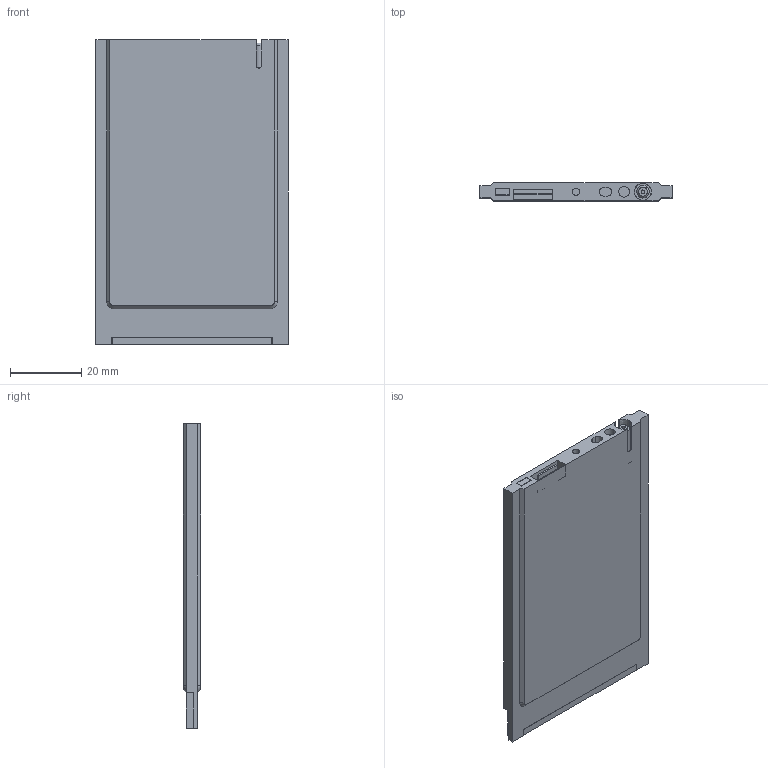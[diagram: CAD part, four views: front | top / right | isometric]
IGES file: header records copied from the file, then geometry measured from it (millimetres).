
Start section:  PTC IGES file: aircard300-1200094-sierra_prt.igs
Global section: file name: aircard300-1200094-sierra_prt.igs; native system: Pro/ENGINEER by Parametric Technology Corporation; preprocessor: 2000030; author: ECaille; organization: Unknown; date: 000803.091917; units: millimetre
Bounding box: 54 x 5 x 85.6 mm (x, y, z)
Surface area: 11344.2 mm2 (no closed solid volume)
Topology: 0 solids, 0 shells, 294 faces, 2002 edges, 2580 vertices
Faces by surface type: revolution 156, bspline 138
